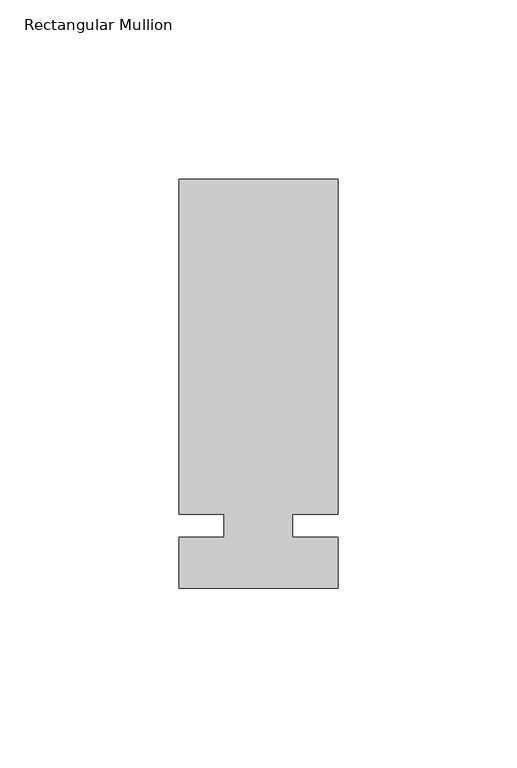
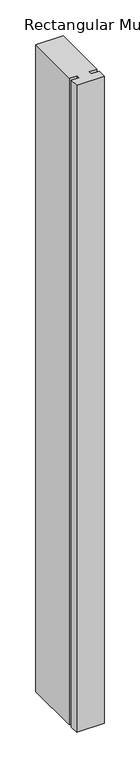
"""IFC4 building model written with IfcOpenShell, lengths in millimetres: member geometry, Rectangular Mullion : Kawneer-TRIFAB_VG_450_BACK_SB_Horizontal."""

from ifc_helpers import new_model, si_unit, frame, origin, place, context, project, spatial, polyline, outline, extrude, source, transform, mapped, element, save


def rectangular_mullion_55bcc982(model_context):
    return source(origin(), model_context, "Body", "SweptSolid", [
        extrude(outline(polyline([(26.5594027, -17.4625), (-17.8905973, -17.4625), (-17.8905973, -3.2050658), (-5.1905973, -3.2050658), (-5.1905973, 3.1449342), (-17.8905973, 3.1449342), (-17.8905973, 96.8375), (26.5594027, 96.8375), (26.5594027, 3.1449342), (13.8576322, 3.1449342), (13.8576322, -3.2050658), (26.5594027, -3.2050658), (26.5594027, -17.4625)])), frame((0.0, 0.0, -1104.7669461), z_axis=(0.0, 0.0, 1.0), x_axis=(1.0, 0.0, 0.0)), (0.0, 0.0, 1.0), 1104.7669461),
    ])


if __name__ == "__main__":
    model = new_model("IFC4")
    model_context = context("Model", 3, world=origin())
    ifc_project = project(units=[si_unit("LENGTHUNIT", "METRE", prefix="MILLI")], contexts=[model_context])
    site = spatial("IfcSite", under=ifc_project)
    building = spatial("IfcBuilding", under=site)
    placement = place(None, origin())
    rectangular_mullion_shape = rectangular_mullion_55bcc982(model_context)
    element("IfcMember", 1, ObjectType="Rectangular Mullion : Kawneer-TRIFAB_VG_450_BACK_SB_Horizontal", at=placement, inside=building, context=model_context, shape_type="MappedRepresentation", body=[
        mapped(rectangular_mullion_shape, transform((0.0, 0.0, 0.0), x_axis=(1.0, 0.0, 0.0), y_axis=(0.0, 1.0, 0.0), z_axis=(0.0, 0.0, 1.0))),
    ])
    save(model, "model.ifc")
